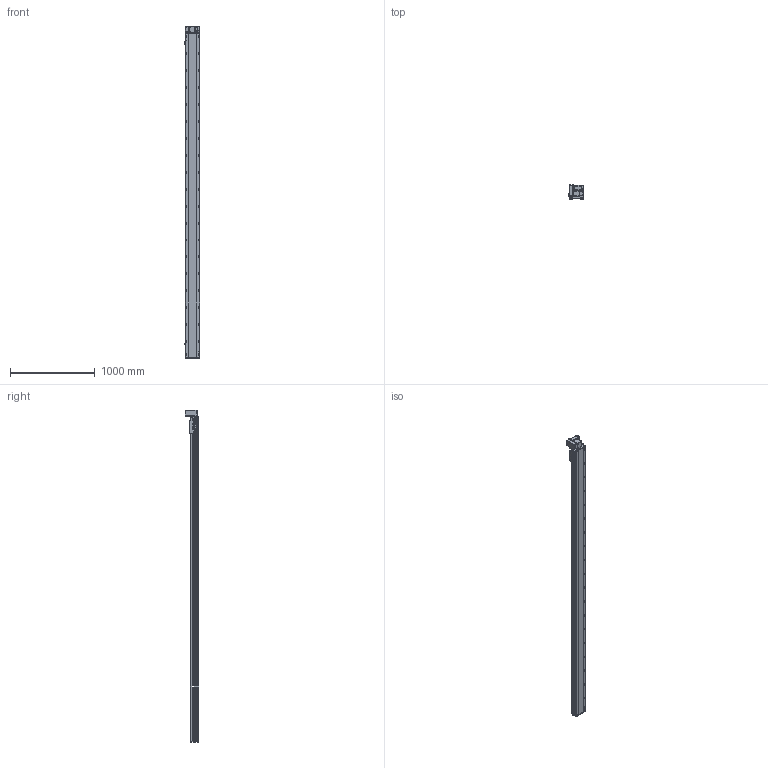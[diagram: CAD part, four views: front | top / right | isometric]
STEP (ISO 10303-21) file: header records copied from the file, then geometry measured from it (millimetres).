
FILE_DESCRIPTION (( 'STEP AP214' ), '1' );
FILE_NAME ('RTB17S-XX-3550-LW-M40-C4.STEP', '2025-12-11T07:24:39', ( '' ), ( '' ), 'SwSTEP 2.0', 'SolidWorks 2018', '' );
FILE_SCHEMA (( 'AUTOMOTIVE_DESIGN' ));
Length unit declared in the file: millimetre
Products named in the file (14): RTB17S-L-004佪裝蹟譫蟀諉釱^RTB17S-XX-XX-LW-M40-C4; RTH13-BL-012覜茼え俋离^RTB17S-XX-XX-LW-M40-C4; RTB17S-L-007奻裔^RTB17S-XX-XX-LW-M40-C4; RTB14-L-017P^RTB17S-LW-々湍釱蚾饜-400W_RTB17S-XX-XX-LW-M40-C4; RTB14-L-008-M20--萇儂啣^RTB17S-LW-々湍釱蚾饜-400W_RTB17S-XX-XX-LW-M40-C4; RTB17S-L-001耜醱啣^RTB17S-XX-XX-LW-M40-C4; 400W侜督萇儂^RTB17S-XX-XX-LW-M40-C4; RTB14-L-018P^RTB17S-LW-々湍釱蚾饜-400W_RTB17S-XX-XX-LW-M40-C4; RTB17S-L-014-T20--々湍釱^RTB17S-LW-々湍釱蚾饜-400W_RTB17S-XX-XX-LW-M40-C4; RTB17S-LW-々湍釱蚾饜-400W^RTB17S-XX-XX-LW-M40-C4; RTB14-L-005P--轴承塑胶压盖^RTB17S-LW-皮带座装配-400W_RTB17S-XX-XX-LW-M40-C4; RTB17-R-011菁釱^RTB17S-XX-XX-LW-M40-C4; RTB17S-XX-3550-LW-M40-C4; OMRON EE-SX672 传感器^RTB17S-XX-XX-LW-M40-C4
Assembly tree (16 placements, depth 3):
  RTB17S-XX-3550-LW-M40-C4
    RTB17-R-011菁釱^RTB17S-XX-XX-LW-M40-C4
    RTB17S-L-007奻裔^RTB17S-XX-XX-LW-M40-C4
    OMRON EE-SX672 传感器^RTB17S-XX-XX-LW-M40-C4  x3
    RTB17S-L-001耜醱啣^RTB17S-XX-XX-LW-M40-C4
    400W侜督萇儂^RTB17S-XX-XX-LW-M40-C4
    RTB17S-L-004佪裝蹟譫蟀諉釱^RTB17S-XX-XX-LW-M40-C4
    RTH13-BL-012覜茼え俋离^RTB17S-XX-XX-LW-M40-C4
    RTB17S-LW-々湍釱蚾饜-400W^RTB17S-XX-XX-LW-M40-C4
      RTB17S-L-014-T20--々湍釱^RTB17S-LW-々湍釱蚾饜-400W_RTB17S-XX-XX-LW-M40-C4
      RTB14-L-005P--轴承塑胶压盖^RTB17S-LW-皮带座装配-400W_RTB17S-XX-XX-LW-M40-C4
      RTB14-L-008-M20--萇儂啣^RTB17S-LW-々湍釱蚾饜-400W_RTB17S-XX-XX-LW-M40-C4
      RTB14-L-017P^RTB17S-LW-々湍釱蚾饜-400W_RTB17S-XX-XX-LW-M40-C4  x2
      RTB14-L-018P^RTB17S-LW-々湍釱蚾饜-400W_RTB17S-XX-XX-LW-M40-C4
Bounding box: 186 x 160.5 x 3922.5 mm (x, y, z)
Volume: 33169372.2 mm3; surface area: 3765757.9 mm2
Topology: 15 solids, 15 shells, 2413 faces, 6789 edges, 4437 vertices
Faces by surface type: plane 1094, cylinder 871, bspline 301, cone 139, torus 8
Entity records: 72617 total; most frequent: CARTESIAN_POINT 20794, ORIENTED_EDGE 10422, DIRECTION 9566, EDGE_CURVE 5211, VERTEX_POINT 3425, AXIS2_PLACEMENT_3D 3355, LINE 2856, VECTOR 2856
